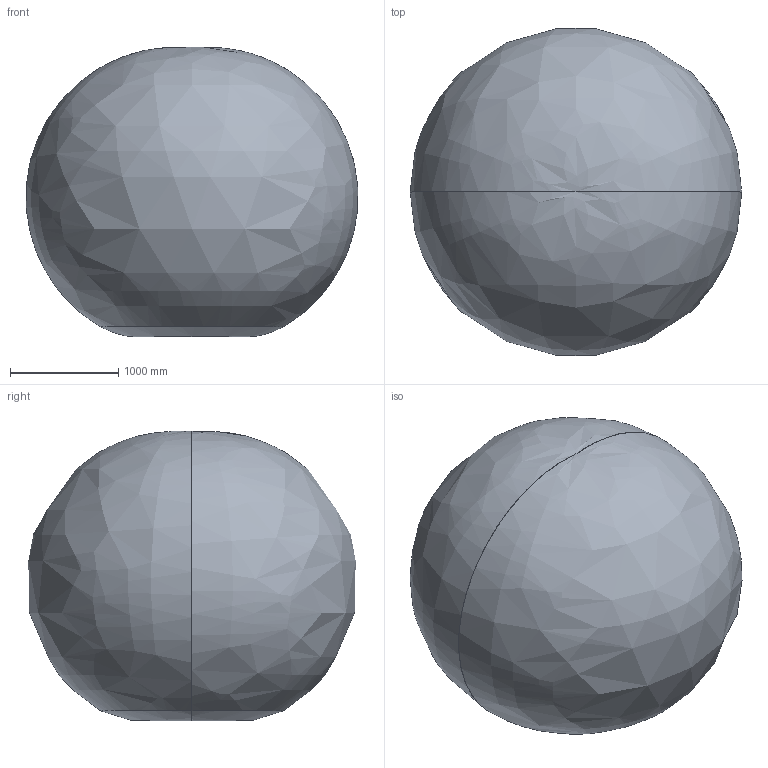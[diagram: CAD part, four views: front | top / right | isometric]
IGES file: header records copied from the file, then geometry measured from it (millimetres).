
Start section: SolidWorks IGES file using analytic representation for surfaces
Global section: file name: C:\Holley\Robot\IRB 1600\03-Simple CAD Model\IRB1660ID_X-155_working space.IGS; native system: SolidWorks 2024; preprocessor: SolidWorks 2024; author: CNHOCHE3; date: 251125.154709; units: millimetre
Bounding box: 3068.59 x 3029.29 x 2679.89 mm (x, y, z)
Surface area: 28677807.9 mm2 (no closed solid volume)
Topology: 0 solids, 0 shells, 10 faces, 40 edges, 32 vertices
Faces by surface type: bspline 10
